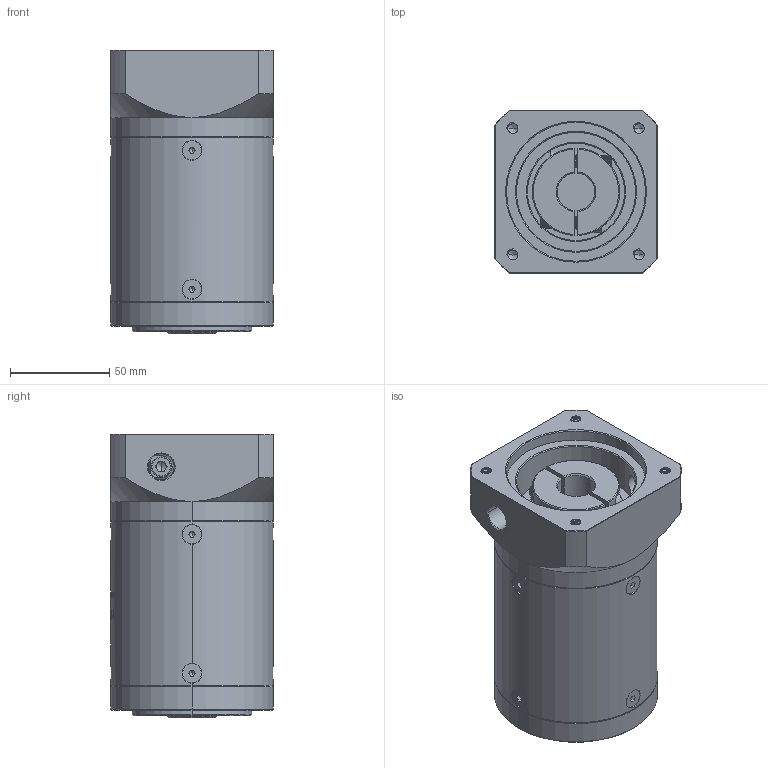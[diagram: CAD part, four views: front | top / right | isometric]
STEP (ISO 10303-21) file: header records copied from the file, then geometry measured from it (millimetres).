
FILE_DESCRIPTION (( 'STEP AP214' ), '1' );
FILE_NAME ('ZE80-K15-L3-19-70-90-M6.step', '2022-05-08T05:58:54', ( '' ), ( 'Microsoft' ), 'SwSTEP 2.0', 'SolidWorks 2016', '' );
FILE_SCHEMA (( 'AUTOMOTIVE_DESIGN' ));
Length unit declared in the file: millimetre
Products named in the file (1): ZE80-K15-L3-19-70-90-M6
Bounding box: 82 x 82 x 143 mm (x, y, z)
Volume: 694361.8 mm3; surface area: 91551.1 mm2
Topology: 13 solids, 13 shells, 2008 faces, 5236 edges, 3315 vertices
Faces by surface type: plane 879, cylinder 473, bspline 322, cone 317, torus 17
Entity records: 112052 total; most frequent: CARTESIAN_POINT 44845, ORIENTED_EDGE 10400, DIRECTION 8015, EDGE_CURVE 5200, VERTEX_POINT 3315, VECTOR 2807, LINE 2807, AXIS2_PLACEMENT_3D 2604
